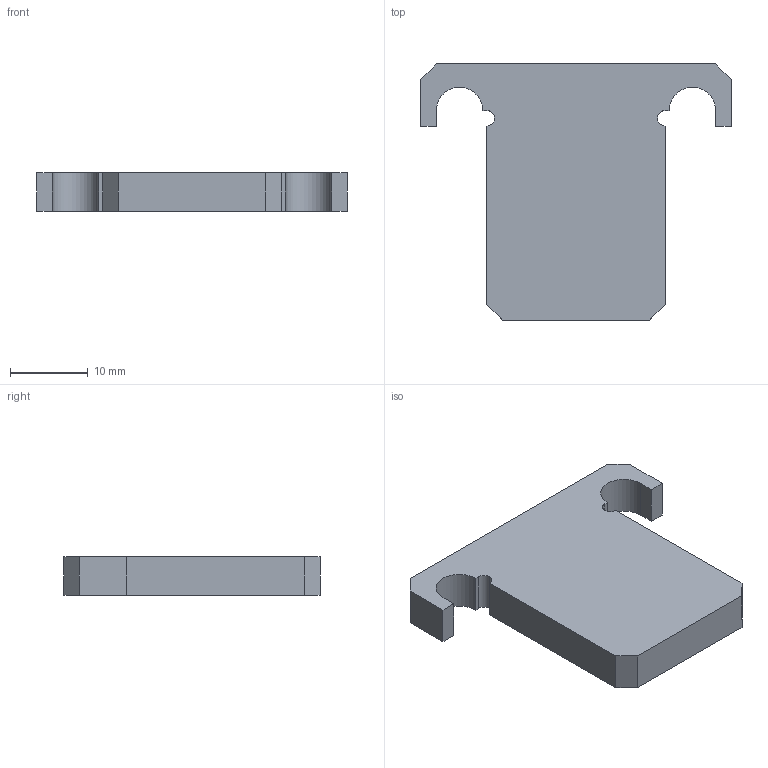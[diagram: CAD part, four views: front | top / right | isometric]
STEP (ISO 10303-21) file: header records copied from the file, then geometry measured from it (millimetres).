
FILE_DESCRIPTION (( 'STEP AP203' ), '1' );
FILE_NAME ('CM-26T03.STEP', '2017-02-27T05:17:01', ( 'user' ), ( '' ), 'SwSTEP 2.0', 'SolidWorks 2012', '' );
FILE_SCHEMA (( 'CONFIG_CONTROL_DESIGN' ));
Length unit declared in the file: millimetre
Products named in the file (1): CM-26T03
Bounding box: 40 x 33 x 5 mm (x, y, z)
Volume: 4147.9 mm3; surface area: 2451.4 mm2
Topology: 1 solids, 1 shells, 23 faces, 63 edges, 42 vertices
Faces by surface type: plane 18, cylinder 5
Entity records: 804 total; most frequent: CARTESIAN_POINT 129, ORIENTED_EDGE 126, DIRECTION 121, EDGE_CURVE 63, VECTOR 53, LINE 53, VERTEX_POINT 42, AXIS2_PLACEMENT_3D 34
